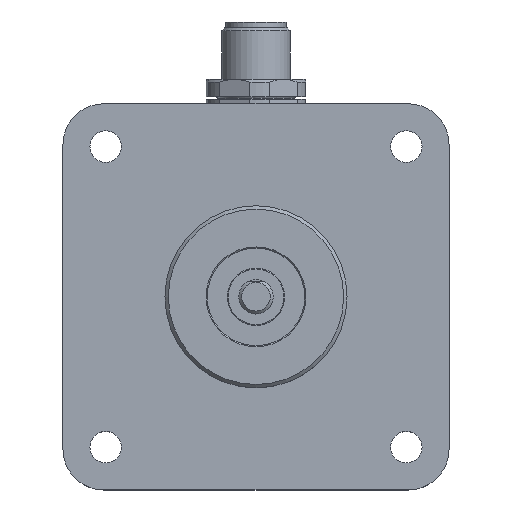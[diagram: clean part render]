
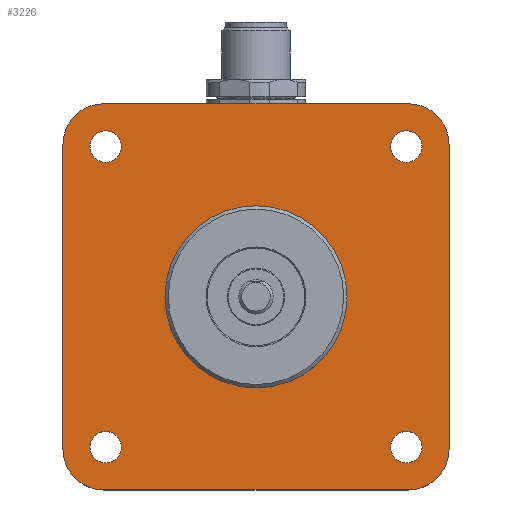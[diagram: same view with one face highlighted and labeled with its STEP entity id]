
A CAD part, top view. The second image highlights one B-rep face of the part: STEP entity #3226.
In plain terms, the highlighted planar face has unit normal (0, 0, 1).
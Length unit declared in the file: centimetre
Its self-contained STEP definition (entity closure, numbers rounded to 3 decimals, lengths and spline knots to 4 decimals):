
#163=VECTOR('',#5193,1.);
#164=VECTOR('',#5196,1.);
#165=VECTOR('',#5199,1.);
#166=VECTOR('',#5202,1.);
#281=LINE('',#4094,#163);
#282=LINE('',#4099,#164);
#283=LINE('',#4103,#165);
#284=LINE('',#4107,#166);
#513=PLANE('',#3526);
#638=VERTEX_POINT('',#4085);
#639=VERTEX_POINT('',#4087);
#640=VERTEX_POINT('',#4089);
#641=VERTEX_POINT('',#4091);
#642=VERTEX_POINT('',#4093);
#643=VERTEX_POINT('',#4095);
#644=VERTEX_POINT('',#4096);
#645=VERTEX_POINT('',#4098);
#646=VERTEX_POINT('',#4100);
#647=VERTEX_POINT('',#4102);
#648=VERTEX_POINT('',#4104);
#649=VERTEX_POINT('',#4106);
#650=VERTEX_POINT('',#4108);
#950=CIRCLE('',#3527,1.5875);
#951=CIRCLE('',#3528,0.275);
#952=CIRCLE('',#3529,0.275);
#953=CIRCLE('',#3530,0.275);
#954=CIRCLE('',#3531,0.275);
#955=CIRCLE('',#3532,0.71);
#956=CIRCLE('',#3533,0.71);
#957=CIRCLE('',#3534,0.71);
#958=CIRCLE('',#3535,0.71);
#1201=EDGE_CURVE('',#638,#638,#950,.T.);
#1202=EDGE_CURVE('',#639,#639,#951,.T.);
#1203=EDGE_CURVE('',#640,#640,#952,.T.);
#1204=EDGE_CURVE('',#641,#641,#953,.T.);
#1205=EDGE_CURVE('',#642,#642,#954,.T.);
#1206=EDGE_CURVE('',#643,#644,#281,.T.);
#1207=EDGE_CURVE('',#644,#645,#955,.T.);
#1208=EDGE_CURVE('',#645,#646,#282,.T.);
#1209=EDGE_CURVE('',#646,#647,#956,.T.);
#1210=EDGE_CURVE('',#647,#648,#283,.T.);
#1211=EDGE_CURVE('',#648,#649,#957,.T.);
#1212=EDGE_CURVE('',#649,#650,#284,.T.);
#1213=EDGE_CURVE('',#650,#643,#958,.T.);
#1596=ORIENTED_EDGE('',*,*,#1201,.T.);
#1597=ORIENTED_EDGE('',*,*,#1202,.F.);
#1598=ORIENTED_EDGE('',*,*,#1203,.F.);
#1599=ORIENTED_EDGE('',*,*,#1204,.F.);
#1600=ORIENTED_EDGE('',*,*,#1205,.F.);
#1601=ORIENTED_EDGE('',*,*,#1206,.T.);
#1602=ORIENTED_EDGE('',*,*,#1207,.T.);
#1603=ORIENTED_EDGE('',*,*,#1208,.T.);
#1604=ORIENTED_EDGE('',*,*,#1209,.T.);
#1605=ORIENTED_EDGE('',*,*,#1210,.T.);
#1606=ORIENTED_EDGE('',*,*,#1211,.T.);
#1607=ORIENTED_EDGE('',*,*,#1212,.T.);
#1608=ORIENTED_EDGE('',*,*,#1213,.T.);
#2366=EDGE_LOOP('',(#1596));
#2367=EDGE_LOOP('',(#1597));
#2368=EDGE_LOOP('',(#1598));
#2369=EDGE_LOOP('',(#1599));
#2370=EDGE_LOOP('',(#1600));
#2371=EDGE_LOOP('',(#1601,#1602,#1603,#1604,#1605,#1606,#1607,#1608));
#2801=FACE_BOUND('',#2366,.T.);
#2802=FACE_BOUND('',#2367,.T.);
#2803=FACE_BOUND('',#2368,.T.);
#2804=FACE_BOUND('',#2369,.T.);
#2805=FACE_BOUND('',#2370,.T.);
#2806=FACE_BOUND('',#2371,.T.);
#3226=ADVANCED_FACE('',(#2801,#2802,#2803,#2804,#2805,#2806),#513,.T.);
#3526=AXIS2_PLACEMENT_3D('',#4083,#5182,$);
#3527=AXIS2_PLACEMENT_3D('',#4084,#5183,#5184);
#3528=AXIS2_PLACEMENT_3D('',#4086,#5185,#5186);
#3529=AXIS2_PLACEMENT_3D('',#4088,#5187,#5188);
#3530=AXIS2_PLACEMENT_3D('',#4090,#5189,#5190);
#3531=AXIS2_PLACEMENT_3D('',#4092,#5191,#5192);
#3532=AXIS2_PLACEMENT_3D('',#4097,#5194,#5195);
#3533=AXIS2_PLACEMENT_3D('',#4101,#5197,#5198);
#3534=AXIS2_PLACEMENT_3D('',#4105,#5200,#5201);
#3535=AXIS2_PLACEMENT_3D('',#4109,#5203,#5204);
#4083=CARTESIAN_POINT('',(0.,0.,
0.));
#4084=CARTESIAN_POINT('',(0.,0.,0.));
#4085=CARTESIAN_POINT('',(1.5875,0.,0.));
#4086=CARTESIAN_POINT('',(2.62,-2.62,0.));
#4087=CARTESIAN_POINT('',(2.895,-2.62,0.));
#4088=CARTESIAN_POINT('',(2.62,2.62,0.));
#4089=CARTESIAN_POINT('',(2.895,2.62,0.));
#4090=CARTESIAN_POINT('',(-2.62,2.62,0.));
#4091=CARTESIAN_POINT('',(-2.345,2.62,0.));
#4092=CARTESIAN_POINT('',(-2.62,-2.62,0.));
#4093=CARTESIAN_POINT('',(-2.345,-2.62,0.));
#4094=CARTESIAN_POINT('',(-3.3655,2.6555,0.));
#4095=CARTESIAN_POINT('',(-3.3655,2.6555,0.));
#4096=CARTESIAN_POINT('',(-3.3655,-2.6555,0.));
#4097=CARTESIAN_POINT('',(-2.6555,-2.6555,0.));
#4098=CARTESIAN_POINT('',(-2.6555,-3.3655,0.));
#4099=CARTESIAN_POINT('',(-2.6555,-3.3655,0.));
#4100=CARTESIAN_POINT('',(2.6555,-3.3655,0.));
#4101=CARTESIAN_POINT('',(2.6555,-2.6555,0.));
#4102=CARTESIAN_POINT('',(3.3655,-2.6555,0.));
#4103=CARTESIAN_POINT('',(3.3655,-2.6555,0.));
#4104=CARTESIAN_POINT('',(3.3655,2.6555,0.));
#4105=CARTESIAN_POINT('',(2.6555,2.6555,0.));
#4106=CARTESIAN_POINT('',(2.6555,3.3655,0.));
#4107=CARTESIAN_POINT('',(2.6555,3.3655,0.));
#4108=CARTESIAN_POINT('',(-2.6555,3.3655,0.));
#4109=CARTESIAN_POINT('',(-2.6555,2.6555,0.));
#5182=DIRECTION('',(0.,0.,1.));
#5183=DIRECTION('',(0.,0.,-1.));
#5184=DIRECTION('',(1.588,0.,0.));
#5185=DIRECTION('',(0.,0.,1.));
#5186=DIRECTION('',(0.275,0.,0.));
#5187=DIRECTION('',(0.,0.,1.));
#5188=DIRECTION('',(0.275,0.,0.));
#5189=DIRECTION('',(0.,0.,1.));
#5190=DIRECTION('',(0.275,0.,0.));
#5191=DIRECTION('',(0.,0.,1.));
#5192=DIRECTION('',(0.275,0.,0.));
#5193=DIRECTION('',(0.,-1.,0.));
#5194=DIRECTION('',(0.,0.,1.));
#5195=DIRECTION('',(0.71,0.,0.));
#5196=DIRECTION('',(1.,0.,0.));
#5197=DIRECTION('',(0.,0.,1.));
#5198=DIRECTION('',(0.71,0.,0.));
#5199=DIRECTION('',(0.,1.,0.));
#5200=DIRECTION('',(0.,0.,1.));
#5201=DIRECTION('',(0.71,0.,0.));
#5202=DIRECTION('',(-1.,0.,0.));
#5203=DIRECTION('',(0.,0.,1.));
#5204=DIRECTION('',(0.71,0.,0.));
